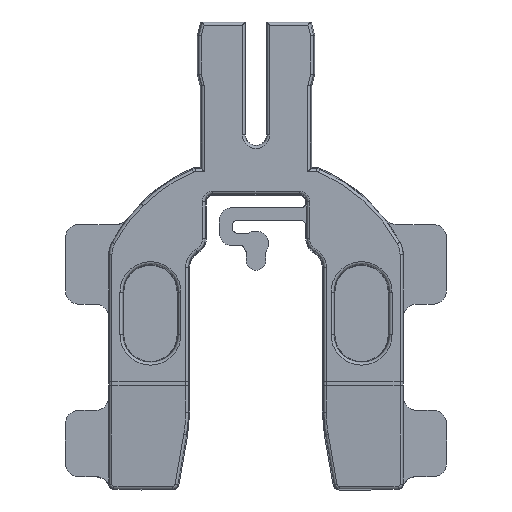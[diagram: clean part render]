
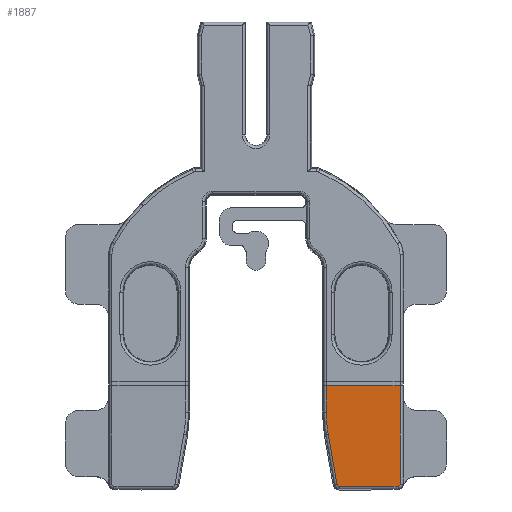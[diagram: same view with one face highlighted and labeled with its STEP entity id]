
A CAD part, top view. The second image highlights one B-rep face of the part: STEP entity #1887.
In plain terms, the highlighted planar face has unit normal (0, -0.062, 0.998).
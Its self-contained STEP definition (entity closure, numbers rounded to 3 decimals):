
#300=ELLIPSE('',#10341,9.722,9.703);
#301=ELLIPSE('',#10351,0.159,0.159);
#302=ELLIPSE('',#10361,0.159,0.159);
#1887=ADVANCED_FACE('',(#2637),#2248,.T.);
#2248=PLANE('',#10491);
#2637=FACE_OUTER_BOUND('',#3266,.T.);
#3266=EDGE_LOOP('',(#5217,#5218,#5219,#5220,#5221,#5222,#5223,#5224));
#5217=ORIENTED_EDGE('',*,*,#8373,.T.);
#5218=ORIENTED_EDGE('',*,*,#8182,.T.);
#5219=ORIENTED_EDGE('',*,*,#8188,.T.);
#5220=ORIENTED_EDGE('',*,*,#8194,.T.);
#5221=ORIENTED_EDGE('',*,*,#8200,.T.);
#5222=ORIENTED_EDGE('',*,*,#8206,.T.);
#5223=ORIENTED_EDGE('',*,*,#8212,.T.);
#5224=ORIENTED_EDGE('',*,*,#8217,.T.);
#7065=VERTEX_POINT('',#18038);
#7071=VERTEX_POINT('',#18064);
#7075=VERTEX_POINT('',#18076);
#7079=VERTEX_POINT('',#18105);
#7083=VERTEX_POINT('',#18117);
#7086=VERTEX_POINT('',#18154);
#7089=VERTEX_POINT('',#18165);
#7092=VERTEX_POINT('',#18186);
#8182=EDGE_CURVE('',#7065,#7071,#9147,.T.);
#8188=EDGE_CURVE('',#7071,#7075,#300,.T.);
#8194=EDGE_CURVE('',#7075,#7079,#9149,.T.);
#8200=EDGE_CURVE('',#7079,#7083,#301,.T.);
#8206=EDGE_CURVE('',#7083,#7086,#9153,.T.);
#8212=EDGE_CURVE('',#7086,#7089,#302,.T.);
#8217=EDGE_CURVE('',#7089,#7092,#9157,.T.);
#8373=EDGE_CURVE('',#7092,#7065,#9220,.T.);
#9147=LINE('',#18065,#9652);
#9149=LINE('',#18106,#9654);
#9153=LINE('',#18155,#9658);
#9157=LINE('',#18187,#9662);
#9220=LINE('',#18941,#9727);
#9652=VECTOR('',#12105,1.);
#9654=VECTOR('',#12131,1.);
#9658=VECTOR('',#12155,1.);
#9662=VECTOR('',#12179,1.);
#9727=VECTOR('',#12490,1.);
#10341=AXIS2_PLACEMENT_3D('',#18077,#12119,#12120);
#10351=AXIS2_PLACEMENT_3D('',#18118,#12143,#12144);
#10361=AXIS2_PLACEMENT_3D('',#18166,#12167,#12168);
#10491=AXIS2_PLACEMENT_3D('',#18943,#12493,#12494);
#12105=DIRECTION('',(-0.001,-0.998,-0.062));
#12119=DIRECTION('',(0.,-0.062,0.998));
#12120=DIRECTION('',(0.,-0.998,-0.062));
#12131=DIRECTION('',(0.172,-0.983,-0.061));
#12143=DIRECTION('',(0.,-0.062,0.998));
#12144=DIRECTION('',(0.,-0.998,-0.062));
#12155=DIRECTION('',(1.,0.,0.));
#12167=DIRECTION('',(0.,-0.062,0.998));
#12168=DIRECTION('',(0.,-0.998,-0.062));
#12179=DIRECTION('',(-0.001,0.998,0.062));
#12490=DIRECTION('',(-1.,0.,0.));
#12493=DIRECTION('',(0.,-0.062,0.998));
#12494=DIRECTION('',(0.,-0.998,-0.062));
#18038=CARTESIAN_POINT('',(5.299,-5.456,-2.105));
#18064=CARTESIAN_POINT('',(5.297,-7.438,-2.229));
#18065=CARTESIAN_POINT('',(5.297,-7.425,-2.228));
#18076=CARTESIAN_POINT('',(5.443,-9.123,-2.334));
#18077=CARTESIAN_POINT('',(15.,-7.448,-2.229));
#18105=CARTESIAN_POINT('',(6.103,-12.89,-2.569));
#18106=CARTESIAN_POINT('',(6.101,-12.878,-2.569));
#18117=CARTESIAN_POINT('',(6.259,-13.021,-2.578));
#18118=CARTESIAN_POINT('',(6.259,-12.863,-2.568));
#18154=CARTESIAN_POINT('',(10.7,-13.021,-2.578));
#18155=CARTESIAN_POINT('',(17.05,-13.021,-2.578));
#18165=CARTESIAN_POINT('',(10.859,-12.862,-2.568));
#18166=CARTESIAN_POINT('',(10.7,-12.863,-2.568));
#18186=CARTESIAN_POINT('',(10.851,-5.456,-2.105));
#18187=CARTESIAN_POINT('',(10.851,-5.456,-2.105));
#18941=CARTESIAN_POINT('',(5.,-5.456,-2.105));
#18943=CARTESIAN_POINT('',(17.05,-13.3,-2.595));
